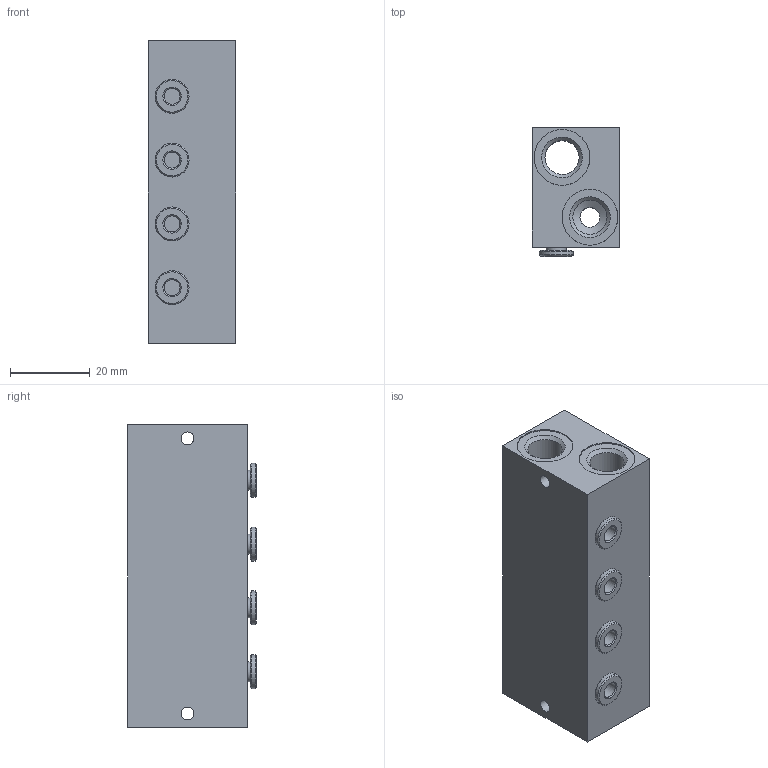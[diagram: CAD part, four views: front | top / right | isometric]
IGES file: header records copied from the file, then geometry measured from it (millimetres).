
Global section: file name: 354_04; native system: Autodesk Inventor 2014; preprocessor: unknown; author: R.Rivoltella; organization: Pneumax S.p.A.; date: 20161003.105207; units: millimetre
Bounding box: 22 x 32.25 x 76 mm (x, y, z)
Volume: 42354.3 mm3; surface area: 14419.1 mm2
Topology: 1 solids, 1 shells, 90 faces, 256 edges, 186 vertices
Faces by surface type: bspline 90
